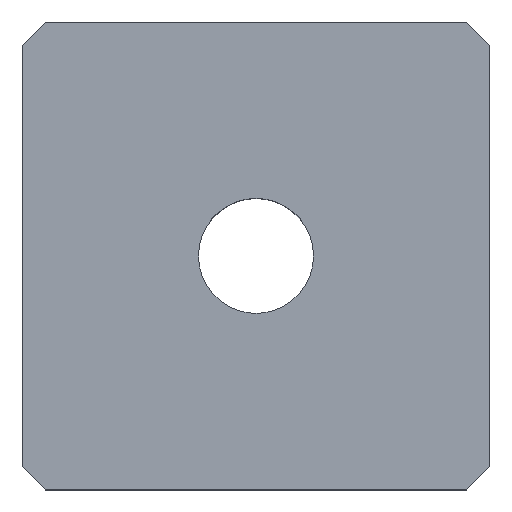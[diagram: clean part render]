
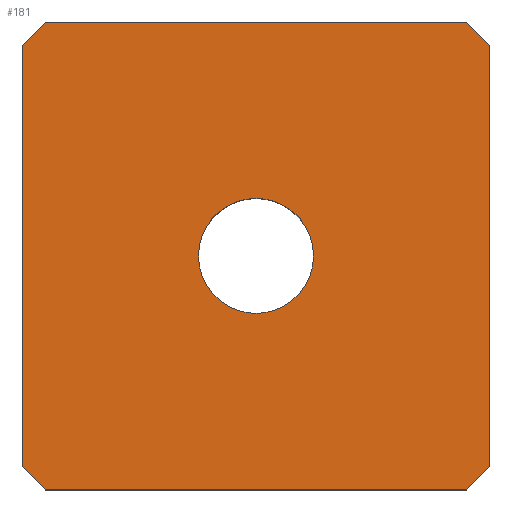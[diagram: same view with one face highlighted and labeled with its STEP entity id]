
A CAD part, top view. The second image highlights one B-rep face of the part: STEP entity #181.
In plain terms, the highlighted planar face has unit normal (0, 0, 1).
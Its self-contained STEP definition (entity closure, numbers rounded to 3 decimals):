
#73=CARTESIAN_POINT('',(19.,20.0,5.0));
#74=VERTEX_POINT('',#73);
#75=CARTESIAN_POINT('',(20.,19.0,5.0));
#76=VERTEX_POINT('',#75);
#77=CARTESIAN_POINT('',(19.,20.,5.0));
#78=DIRECTION('',(0.707,-0.707,0.0));
#79=VECTOR('',#78,1.414);
#80=LINE('',#77,#79);
#81=EDGE_CURVE('',#74,#76,#80,.T.);
#108=CARTESIAN_POINT('',(10.,10.,5.0));
#109=DIRECTION('',(0.0,0.0,1.0));
#110=DIRECTION('',(1.0,0.0,0.0));
#111=AXIS2_PLACEMENT_3D('',#108,#109,#110);
#112=PLANE('',#111);
#113=ORIENTED_EDGE('',*,*,#81,.F.);
#114=CARTESIAN_POINT('',(1.,20.,5.0));
#115=VERTEX_POINT('',#114);
#116=CARTESIAN_POINT('',(1.,20.,5.0));
#117=DIRECTION('',(1.0,0.0,0.0));
#118=VECTOR('',#117,18.0);
#119=LINE('',#116,#118);
#120=EDGE_CURVE('',#115,#74,#119,.T.);
#121=ORIENTED_EDGE('',*,*,#120,.F.);
#122=CARTESIAN_POINT('',(0.,19.,5.0));
#123=VERTEX_POINT('',#122);
#124=CARTESIAN_POINT('',(0.,19.,5.0));
#125=DIRECTION('',(0.707,0.707,0.0));
#126=VECTOR('',#125,1.414);
#127=LINE('',#124,#126);
#128=EDGE_CURVE('',#123,#115,#127,.T.);
#129=ORIENTED_EDGE('',*,*,#128,.F.);
#130=CARTESIAN_POINT('',(0.,1.,5.0));
#131=VERTEX_POINT('',#130);
#132=CARTESIAN_POINT('',(0.,1.0,5.0));
#133=DIRECTION('',(0.0,1.0,0.0));
#134=VECTOR('',#133,18.);
#135=LINE('',#132,#134);
#136=EDGE_CURVE('',#131,#123,#135,.T.);
#137=ORIENTED_EDGE('',*,*,#136,.F.);
#138=CARTESIAN_POINT('',(1.,0.0,5.0));
#139=VERTEX_POINT('',#138);
#140=CARTESIAN_POINT('',(1.,0.,5.0));
#141=DIRECTION('',(-0.707,0.707,0.0));
#142=VECTOR('',#141,1.414);
#143=LINE('',#140,#142);
#144=EDGE_CURVE('',#139,#131,#143,.T.);
#145=ORIENTED_EDGE('',*,*,#144,.F.);
#146=CARTESIAN_POINT('',(19.0,0.0,5.0));
#147=VERTEX_POINT('',#146);
#148=CARTESIAN_POINT('',(19.0,0.0,5.0));
#149=DIRECTION('',(-1.0,0.0,0.0));
#150=VECTOR('',#149,18.0);
#151=LINE('',#148,#150);
#152=EDGE_CURVE('',#147,#139,#151,.T.);
#153=ORIENTED_EDGE('',*,*,#152,.F.);
#154=CARTESIAN_POINT('',(20.0,1.,5.0));
#155=VERTEX_POINT('',#154);
#156=CARTESIAN_POINT('',(20.0,1.,5.0));
#157=DIRECTION('',(-0.707,-0.707,0.0));
#158=VECTOR('',#157,1.414);
#159=LINE('',#156,#158);
#160=EDGE_CURVE('',#155,#147,#159,.T.);
#161=ORIENTED_EDGE('',*,*,#160,.F.);
#162=CARTESIAN_POINT('',(20.,19.0,5.0));
#163=DIRECTION('',(0.0,-1.0,0.0));
#164=VECTOR('',#163,18.0);
#165=LINE('',#162,#164);
#166=EDGE_CURVE('',#76,#155,#165,.T.);
#167=ORIENTED_EDGE('',*,*,#166,.F.);
#168=EDGE_LOOP('',(#113,#121,#129,#137,#145,#153,#161,#167));
#169=FACE_OUTER_BOUND('',#168,.T.);
#170=CARTESIAN_POINT('',(12.458,10.,5.0));
#171=VERTEX_POINT('',#170);
#172=CARTESIAN_POINT('',(10.,10.,5.0));
#173=DIRECTION('',(0.0,0.0,-1.0));
#174=DIRECTION('',(1.0,0.0,0.0));
#175=AXIS2_PLACEMENT_3D('',#172,#173,#174);
#176=CIRCLE('',#175,2.459);
#177=EDGE_CURVE('',#171,#171,#176,.T.);
#178=ORIENTED_EDGE('',*,*,#177,.T.);
#179=EDGE_LOOP('',(#178));
#180=FACE_BOUND('',#179,.T.);
#181=ADVANCED_FACE('',(#169,#180),#112,.T.);
